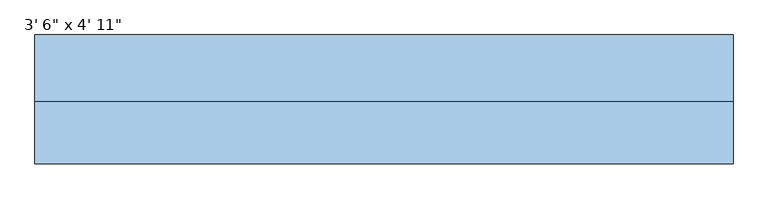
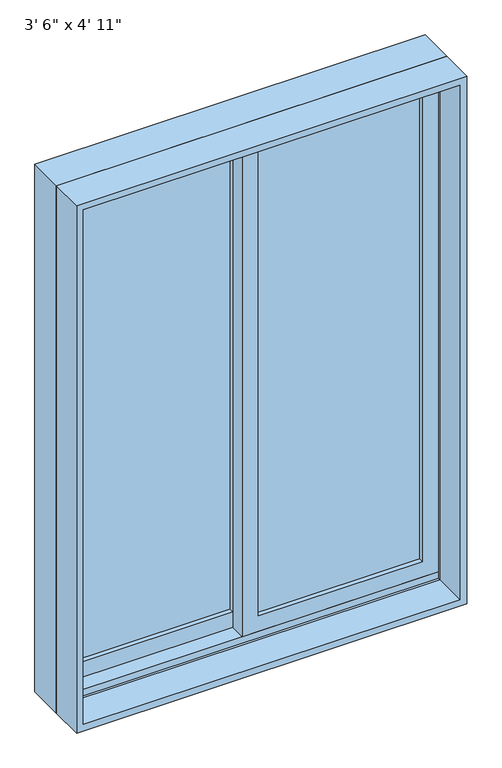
"""IFC4 building model written with IfcOpenShell, lengths in millimetres: window geometry."""

import ifcopenshell
import ifcopenshell.guid

model = None  # the IFC model being written
_history = None  # IfcOwnerHistory: only IFC2X3 demands one
_inside = {}  # id of a spatial element -> (the spatial element, [elements in it])
_under = {}  # id of a project, library or spatial element -> (it, [spatial elements below it])
_declared = {}  # id of a project -> (the project, [libraries it declares])
_typed = {}  # id of a type object -> (the type object, [elements of that type])
_made_of = {}  # id of a material, layer set ... -> (it, [elements and type objects made of it])


def new_model(schema):
    """Start an empty IFC model of exactly this schema.

    Asked for "IFC4X3", IfcOpenShell would pick the latest addendum, in which some entities
    have other attributes; the version numbers below select the first issue.
    IFC2X3 requires an IfcOwnerHistory on every rooted entity: one is made here for all.
    """
    global model, _history
    if schema == "IFC4X3":
        model = ifcopenshell.file(schema_version=(4, 3, 0, 0))
    else:
        model = ifcopenshell.file(schema=schema)
    _inside.clear()
    _under.clear()
    _declared.clear()
    _typed.clear()
    _made_of.clear()
    _history = None
    if model.schema == "IFC2X3":
        org = make("IfcOrganization", Name="unknown")
        user = make(
            "IfcPersonAndOrganization",
            ThePerson=make("IfcPerson", FamilyName="unknown"),
            TheOrganization=org,
        )
        app = make(
            "IfcApplication",
            ApplicationDeveloper=org,
            Version="unknown",
            ApplicationFullName="unknown",
            ApplicationIdentifier="unknown",
        )
        _history = make(
            "IfcOwnerHistory",
            OwningUser=user,
            OwningApplication=app,
            ChangeAction="ADDED",
            CreationDate=0,
        )
    return model


def make(cls, **values):
    """One entity of the class cls with the attributes given. An attribute that is None is left unset."""
    return model.create_entity(
        cls, **{name: value for name, value in values.items() if value is not None}
    )


def rooted(cls, **values):
    """An entity with a GlobalId (a new one), such as an element, a storey or a relation."""
    return make(cls, GlobalId=ifcopenshell.guid.new(), OwnerHistory=_history, **values)


def si_unit(unit_type, name, prefix=None):
    """IfcSIUnit, for example si_unit("LENGTHUNIT", "METRE", prefix="MILLI")."""
    return make("IfcSIUnit", UnitType=unit_type, Prefix=prefix, Name=name)


def assignment(units):
    """IfcUnitAssignment: the units of a project."""
    return None if units is None else make("IfcUnitAssignment", Units=units)


def point(xyz):
    """IfcCartesianPoint."""
    return None if xyz is None else make("IfcCartesianPoint", Coordinates=xyz)


def direction(xyz):
    """IfcDirection."""
    return None if xyz is None else make("IfcDirection", DirectionRatios=xyz)


def frame(location, z_axis=None, x_axis=None):
    """IfcAxis2Placement3D, a coordinate frame: its origin and axes. An axis left out is left unset."""
    return make(
        "IfcAxis2Placement3D",
        Location=point(location),
        Axis=direction(z_axis),
        RefDirection=direction(x_axis),
    )


def origin():
    """The frame at (0, 0, 0) with its axes left unset."""
    return frame((0.0, 0.0, 0.0))


def place(relative_to, where):
    """IfcLocalPlacement: puts the frame where relative to a parent placement (None: the world)."""
    return make(
        "IfcLocalPlacement", PlacementRelTo=relative_to, RelativePlacement=where
    )


def context(
    kind, dimensions, precision=None, world=None, true_north=None, identifier=None
):
    """IfcGeometricRepresentationContext, for example the 3D "Model" context."""
    return make(
        "IfcGeometricRepresentationContext",
        ContextIdentifier=identifier,
        ContextType=kind,
        CoordinateSpaceDimension=dimensions,
        Precision=precision,
        WorldCoordinateSystem=world,
        TrueNorth=true_north,
    )


def project(units=None, contexts=None):
    """IfcProject with its units and contexts."""
    return rooted(
        "IfcProject",
        Name="project",
        RepresentationContexts=contexts,
        UnitsInContext=assignment(units),
    )


def spatial(cls, under=None, at=None, **own):
    """A site, building, storey or space (cls), placed at a placement, below another one or the project."""
    s = rooted(cls, ObjectPlacement=at, **own)
    if under is not None:
        _under.setdefault(under.id(), (under, []))[1].append(s)
    return s


def polyline(points):
    """IfcPolyline through the points."""
    return make("IfcPolyline", Points=[point(p) for p in points])


def outline(outer, holes=None, kind="AREA"):
    """IfcArbitraryClosedProfileDef: a profile drawn as a closed curve; with holes, ...WithVoids."""
    if holes is None:
        return make("IfcArbitraryClosedProfileDef", ProfileType=kind, OuterCurve=outer)
    return make(
        "IfcArbitraryProfileDefWithVoids",
        ProfileType=kind,
        OuterCurve=outer,
        InnerCurves=holes,
    )


def extrude(swept, where, along, depth):
    """IfcExtrudedAreaSolid: the profile swept, set in the frame where, extruded along a direction by depth."""
    return make(
        "IfcExtrudedAreaSolid",
        SweptArea=swept,
        Position=where,
        ExtrudedDirection=direction(along),
        Depth=depth,
    )


def faces_of(points, faces, orient=None, outer=None):
    """IfcFace entities. A face is a list of loops; a loop is a list of indices into points, from 0.

    orient and outer hold one flag for each loop. By default every Orientation is true, the
    first loop of a face is its IfcFaceOuterBound and the others are IfcFaceBound.
    """
    made = []
    for i, loops in enumerate(faces):
        bounds = []
        for j, loop in enumerate(loops):
            is_outer = j == 0 if outer is None else outer[i][j]
            bounds.append(
                make(
                    "IfcFaceOuterBound" if is_outer else "IfcFaceBound",
                    Bound=make("IfcPolyLoop", Polygon=[points[k] for k in loop]),
                    Orientation=True if orient is None else orient[i][j],
                )
            )
        made.append(make("IfcFace", Bounds=bounds))
    return made


def faceted_brep(points, faces, orient=None, outer=None, voids=None):
    """IfcFacetedBrep: a solid bounded by flat faces; with voids (closed shells), ...WithVoids."""
    shared = [point(p) for p in points]
    hull = make("IfcClosedShell", CfsFaces=faces_of(shared, faces, orient, outer))
    if voids is None:
        return make("IfcFacetedBrep", Outer=hull)
    return make(
        "IfcFacetedBrepWithVoids",
        Outer=hull,
        Voids=[
            make(cls, CfsFaces=faces_of(shared, fs, o, b)) for cls, fs, o, b in voids
        ],
    )


def shape(context_of_items, identifier, shape_type, items):
    """IfcShapeRepresentation: the items that make up one representation, for example the "Body"."""
    return make(
        "IfcShapeRepresentation",
        ContextOfItems=context_of_items,
        RepresentationIdentifier=identifier,
        RepresentationType=shape_type,
        Items=items,
    )


def source(mapping_origin, context_of_items, identifier, shape_type, items):
    """IfcRepresentationMap: a shape defined once, which mapped items show again and again."""
    return make(
        "IfcRepresentationMap",
        MappingOrigin=mapping_origin,
        MappedRepresentation=shape(context_of_items, identifier, shape_type, items),
    )


def transform(
    local_origin,
    x_axis=None,
    y_axis=None,
    z_axis=None,
    scale=None,
    scale2=None,
    scale3=None,
    uniform=True,
):
    """IfcCartesianTransformationOperator3D, or its non-uniform kind. x_axis, y_axis, z_axis: its Axis1, 2, 3."""
    if uniform:
        return make(
            "IfcCartesianTransformationOperator3D",
            Axis1=direction(x_axis),
            Axis2=direction(y_axis),
            LocalOrigin=point(local_origin),
            Scale=scale,
            Axis3=direction(z_axis),
        )
    return make(
        "IfcCartesianTransformationOperator3DnonUniform",
        Axis1=direction(x_axis),
        Axis2=direction(y_axis),
        LocalOrigin=point(local_origin),
        Scale=scale,
        Axis3=direction(z_axis),
        Scale2=scale2,
        Scale3=scale3,
    )


def mapped(mapping_source, mapping_target):
    """IfcMappedItem: shows the shape of a source again, moved by a transform."""
    return make(
        "IfcMappedItem", MappingSource=mapping_source, MappingTarget=mapping_target
    )


def made_of(thing, what):
    """Note that an element or type object is made of a material, layer set ...; save() writes the relation."""
    if what is not None:
        _made_of.setdefault(what.id(), (what, []))[1].append(thing)
    return thing


def element(
    cls,
    number,
    at=None,
    inside=None,
    cuts=None,
    type_object=None,
    material=None,
    context=None,
    identifier="Body",
    shape_type=None,
    held_by="IfcProductDefinitionShape",
    body=None,
    shapes=None,
    **own,
):
    """One element of the class cls, such as IfcWall. Its Tag is "e" and its number.

    at: its placement. inside: the storey or other place that contains it. cuts: it is an
    opening in that element (IfcRelVoidsElement). A single representation is given by context,
    identifier, shape_type and body (its items); several are given by shapes. held_by: the class
    of the entity that holds the representations. save() writes the other relations.
    """
    e = rooted(cls, Tag="e%d" % number, ObjectPlacement=at, **own)
    if body is not None:
        shapes = [shape(context, identifier, shape_type, body)]
    if shapes is not None:
        e.Representation = make(held_by, Representations=shapes)
    if inside is not None:
        _inside.setdefault(inside.id(), (inside, []))[1].append(e)
    if cuts is not None:
        rooted(
            "IfcRelVoidsElement", RelatingBuildingElement=cuts, RelatedOpeningElement=e
        )
    if type_object is not None:
        _typed.setdefault(type_object.id(), (type_object, []))[1].append(e)
    return made_of(e, material)


def aggregate(whole, parts):
    """IfcRelAggregates: a whole, such as a stair, and the parts it consists of."""
    return rooted("IfcRelAggregates", RelatingObject=whole, RelatedObjects=parts)


def save(model, path):
    """Write the relations noted so far, then the file.

    IfcRelAggregates (storeys below a building ...), IfcRelContainedInSpatialStructure (elements
    in a storey), IfcRelDefinesByType, IfcRelAssociatesMaterial and IfcRelDeclares: one each for
    every whole, place, type object, material and project.
    """
    for whole, parts in _under.values():
        aggregate(whole, parts)
    for where, things in _inside.values():
        rooted(
            "IfcRelContainedInSpatialStructure",
            RelatedElements=things,
            RelatingStructure=where,
        )
    for kind, things in _typed.values():
        rooted("IfcRelDefinesByType", RelatedObjects=things, RelatingType=kind)
    for what, things in _made_of.values():
        rooted("IfcRelAssociatesMaterial", RelatedObjects=things, RelatingMaterial=what)
    for by, libraries in _declared.values():
        rooted("IfcRelDeclares", RelatingContext=by, RelatedDefinitions=libraries)
    model.write(path)


def window_40bee93f(model_context):
    return source(origin(), model_context, "Body", "SolidModel", [
        extrude(outline(polyline([(933.45, -514.35), (933.45, 22.225), (2419.35, 22.225), (2419.35, -514.35), (933.45, -514.35)]), holes=[polyline([(2374.9, -22.225), (996.95, -22.225), (996.95, -469.9), (2374.9, -469.9), (2374.9, -22.225)])]), frame((0.0, 53.34, 0.0), z_axis=(0.0, 1.0, 0.0), x_axis=(0.0, 0.0, 1.0)), (0.0, 0.0, 1.0), 44.45),
        extrude(outline(polyline([(952.5, 514.35), (2419.35, 514.35), (2419.35, -22.225), (952.5, -22.225), (952.5, 514.35)]), holes=[polyline([(996.95, 22.225), (2374.9, 22.225), (2374.9, 469.9), (996.95, 469.9), (996.95, 22.225)])]), frame((0.0, 8.89, 0.0), z_axis=(0.0, 1.0, 0.0), x_axis=(0.0, 0.0, 1.0)), (0.0, 0.0, 1.0), 44.45),
        faceted_brep([(-533.4, 2.54, 914.4), (-533.4, 104.14, 914.4), (533.4, 104.14, 914.4), (533.4, 2.54, 914.4), (-492.4778905, 104.14, 2397.4778905), (-492.4778905, 97.79, 2397.4778905), (-492.4778905, 97.79, 933.45), (-492.4778905, 104.14, 933.45), (492.4778905, 97.79, 2397.4778905), (492.4778905, 97.79, 933.45), (514.35, 97.79, 933.45), (514.35, 97.79, 2419.35), (-514.35, 97.79, 2419.35), (-514.35, 97.79, 933.45), (-514.35, 2.54, 2419.35), (-514.35, 2.54, 933.45), (-514.35, 8.89, 933.45), (-514.35, 8.89, 952.5), (-514.35, 53.34, 952.5), (-514.35, 53.34, 933.45), (533.4, 2.54, 2438.4), (-533.4, 2.54, 2438.4), (514.35, 2.54, 2419.35), (514.35, 2.54, 933.45), (-533.4, 104.14, 2438.4), (533.4, 104.14, 2438.4), (492.4778905, 104.14, 933.45), (492.4778905, 104.14, 2397.4778905), (514.35, 53.34, 933.45), (514.35, 53.34, 952.5), (514.35, 8.89, 952.5), (514.35, 8.89, 933.45)], [[[0, 1, 2, 3]], [[4, 5, 6, 7]], [[5, 8, 9, 10, 11, 12, 13, 6]], [[12, 14, 15, 16, 17, 18, 19, 13]], [[0, 3, 20, 21], [22, 23, 15, 14]], [[24, 1, 0, 21]], [[2, 1, 24, 25], [4, 7, 26, 27]], [[5, 4, 27, 8]], [[12, 11, 22, 14]], [[21, 20, 25, 24]], [[8, 27, 26, 9]], [[22, 11, 10, 28, 29, 30, 31, 23]], [[20, 3, 2, 25]], [[26, 7, 6, 13, 19, 28, 10, 9]], [[28, 19, 18, 29]], [[29, 18, 17, 30]], [[30, 17, 16, 31]], [[15, 23, 31, 16]]]),
        extrude(outline(polyline([(2438.4, -533.4), (914.4, -533.4), (914.4, 533.4), (2438.4, 533.4), (2438.4, -533.4)]), holes=[polyline([(2419.35, 514.35), (933.45, 514.35), (933.45, -514.35), (2419.35, -514.35), (2419.35, 514.35)])]), frame((0.0, -92.71, 0.0), z_axis=(0.0, 1.0, 0.0), x_axis=(0.0, 0.0, 1.0)), (0.0, 0.0, 1.0), 95.25),
        extrude(outline(polyline([(469.9, 40.64), (469.9, 34.29), (22.225, 34.29), (22.225, 40.64), (469.9, 40.64)])), frame((0.0, 0.0, 996.95), z_axis=(0.0, 0.0, 1.0), x_axis=(1.0, 0.0, 0.0)), (0.0, 0.0, 1.0), 1377.95),
        extrude(outline(polyline([(469.9, 27.94), (469.9, 21.59), (22.225, 21.59), (22.225, 27.94), (469.9, 27.94)])), frame((0.0, 0.0, 996.95), z_axis=(0.0, 0.0, 1.0), x_axis=(1.0, 0.0, 0.0)), (0.0, 0.0, 1.0), 1377.95),
        extrude(outline(polyline([(-22.225, 85.09), (-22.225, 78.74), (-469.9, 78.74), (-469.9, 85.09), (-22.225, 85.09)])), frame((0.0, 0.0, 996.95), z_axis=(0.0, 0.0, 1.0), x_axis=(1.0, 0.0, 0.0)), (0.0, 0.0, 1.0), 1377.95),
        extrude(outline(polyline([(-22.225, 72.39), (-22.225, 66.04), (-469.9, 66.04), (-469.9, 72.39), (-22.225, 72.39)])), frame((0.0, 0.0, 996.95), z_axis=(0.0, 0.0, 1.0), x_axis=(1.0, 0.0, 0.0)), (0.0, 0.0, 1.0), 1377.95),
    ])


if __name__ == "__main__":
    model = new_model("IFC4")
    model_context = context("Model", 3, world=origin())
    ifc_project = project(units=[si_unit("LENGTHUNIT", "METRE", prefix="MILLI")], contexts=[model_context])
    site = spatial("IfcSite", under=ifc_project)
    building = spatial("IfcBuilding", under=site)
    placement = place(None, origin())
    window_shape = window_40bee93f(model_context)
    element("IfcWindow", 1, ObjectType="Planitar-Sliding-Double : 3' 6\" x 4' 11\"", at=placement, inside=building, context=model_context, shape_type="MappedRepresentation", body=[
        mapped(window_shape, transform((0.0, 0.0, 0.0), x_axis=(1.0, 0.0, 0.0), y_axis=(0.0, 1.0, 0.0), z_axis=(0.0, 0.0, 1.0))),
    ])
    save(model, "model.ifc")
